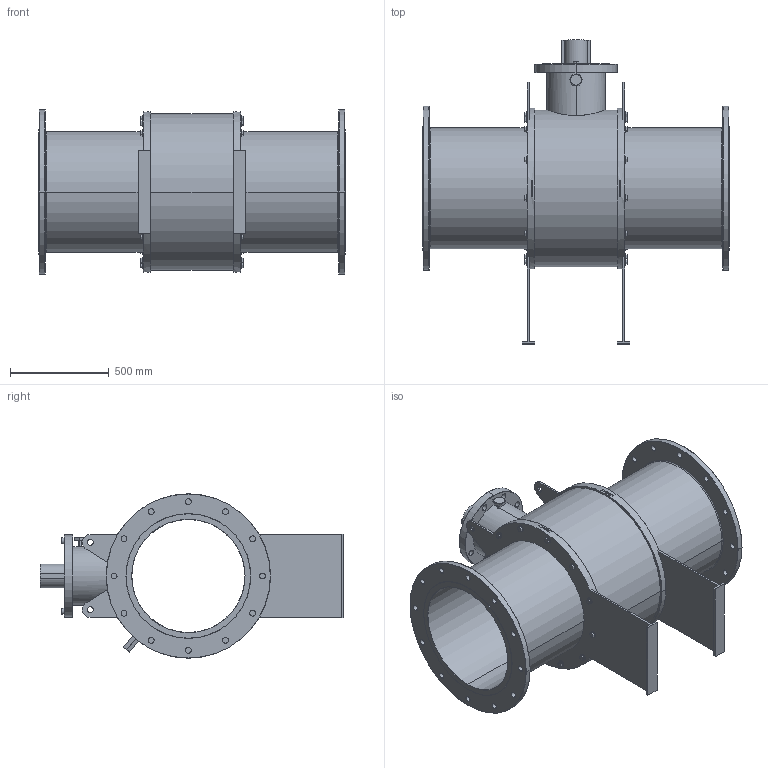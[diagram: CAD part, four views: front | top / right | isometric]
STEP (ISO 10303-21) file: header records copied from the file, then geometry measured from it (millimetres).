
FILE_DESCRIPTION (( 'STEP AP203' ), '1' );
FILE_NAME ('GB2_ANSI_900_24IN_TW.STEP', '2025-10-09T15:16:12', ( '' ), ( '' ), 'SwSTEP 2.0', 'SolidWorks 2025', '' );
FILE_SCHEMA (( 'CONFIG_CONTROL_DESIGN' ));
Length unit declared in the file: millimetre
Products named in the file (3): hex flange screw_am_B18.2.3.4M - Hex flange screw, M16 x 2.0 x 25 --25N; GB2_ANSI_2500_1500_ANSI_900_24IN; GB2_ANSI_900_24IN_TW
Assembly tree (25 placements, depth 2):
  GB2_ANSI_900_24IN_TW
    GB2_ANSI_2500_1500_ANSI_900_24IN
    hex flange screw_am_B18.2.3.4M - Hex flange screw, M16 x 2.0 x 25 --25N  x24
Bounding box: 1549 x 1537 x 831.5 mm (x, y, z)
Volume: 197556793 mm3; surface area: 9193032.7 mm2
Topology: 25 solids, 25 shells, 1041 faces, 2326 edges, 1392 vertices
Faces by surface type: plane 325, cone 270, cylinder 230, bspline 156, torus 54, sphere 6
Entity records: 14019 total; most frequent: CARTESIAN_POINT 4002, DIRECTION 2022, ORIENTED_EDGE 1792, EDGE_CURVE 896, AXIS2_PLACEMENT_3D 820, VERTEX_POINT 562, EDGE_LOOP 492, CIRCLE 436
